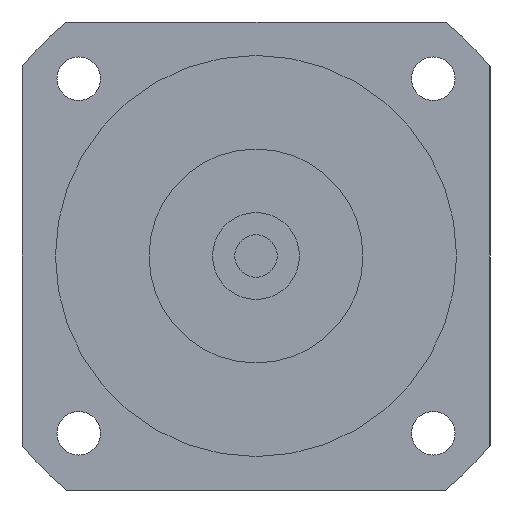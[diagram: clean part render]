
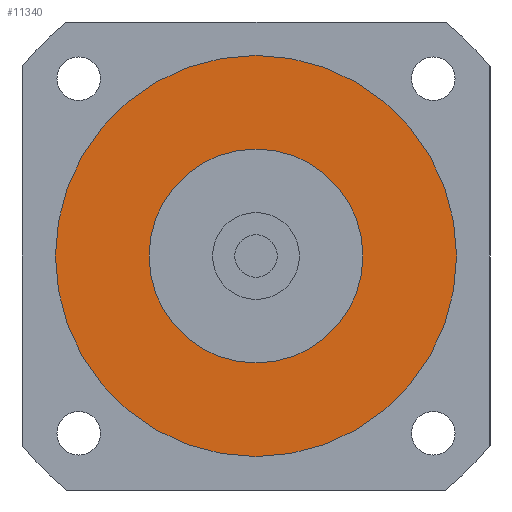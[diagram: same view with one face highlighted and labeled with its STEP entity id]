
A CAD part, left-side view. The second image highlights one B-rep face of the part: STEP entity #11340.
In plain terms, the highlighted planar face has unit normal (-1, 0, 0) as drawn and (0, 0, -1) by its records, which use the part's own axes.
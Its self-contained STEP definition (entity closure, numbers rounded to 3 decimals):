
#10680=CARTESIAN_POINT('',(-16.,0.,-32.));
#10690=VERTEX_POINT('',#10680);
#10740=CARTESIAN_POINT('',(0.,0.,
-32.));
#10750=DIRECTION('',(0.,0.,1.));
#10760=DIRECTION('',(0.,1.,0.));
#10770=AXIS2_PLACEMENT_3D('',#10740,#10750,#10760);
#10780=CIRCLE('',#10770,16.);
#10790=CARTESIAN_POINT('',(16.,0.,-32.));
#10800=VERTEX_POINT('',#10790);
#10810=EDGE_CURVE('',#10690,#10800,#10780,.T.);
#11010=CARTESIAN_POINT('',(0.,0.,
-32.));
#11020=DIRECTION('',(0.,0.,1.));
#11030=DIRECTION('',(-1.,0.,0.));
#11040=AXIS2_PLACEMENT_3D('',#11010,#11020,#11030);
#11050=PLANE('',#11040);
#11060=CARTESIAN_POINT('',(0.,0.,
-32.));
#11070=DIRECTION('',(0.,0.,1.));
#11080=DIRECTION('',(0.,1.,0.));
#11090=AXIS2_PLACEMENT_3D('',#11060,#11070,#11080);
#11100=CIRCLE('',#11090,30.);
#11110=CARTESIAN_POINT('',(0.,30.,-32.));
#11120=VERTEX_POINT('',#11110);
#11130=CARTESIAN_POINT('',(-30.,0.,-32.));
#11140=VERTEX_POINT('',#11130);
#11150=EDGE_CURVE('',#11120,#11140,#11100,.T.);
#11160=ORIENTED_EDGE('',*,*,#11150,.F.);
#11170=CARTESIAN_POINT('',(30.,0.,-32.));
#11180=VERTEX_POINT('',#11170);
#11190=EDGE_CURVE('',#11140,#11180,#11100,.T.);
#11200=ORIENTED_EDGE('',*,*,#11190,.F.);
#11210=EDGE_CURVE('',#11180,#11120,#11100,.T.);
#11220=ORIENTED_EDGE('',*,*,#11210,.F.);
#11230=EDGE_LOOP('',(#11220,#11200,#11160));
#11240=FACE_OUTER_BOUND('',#11230,.T.);
#11250=ORIENTED_EDGE('',*,*,#10810,.T.);
#11260=CARTESIAN_POINT('',(0.,16.,-32.));
#11270=VERTEX_POINT('',#11260);
#11280=EDGE_CURVE('',#11270,#10690,#10780,.T.);
#11290=ORIENTED_EDGE('',*,*,#11280,.T.);
#11300=EDGE_CURVE('',#10800,#11270,#10780,.T.);
#11310=ORIENTED_EDGE('',*,*,#11300,.T.);
#11320=EDGE_LOOP('',(#11310,#11290,#11250));
#11330=FACE_BOUND('',#11320,.T.);
#11340=ADVANCED_FACE('',(#11240,#11330),#11050,.F.);
